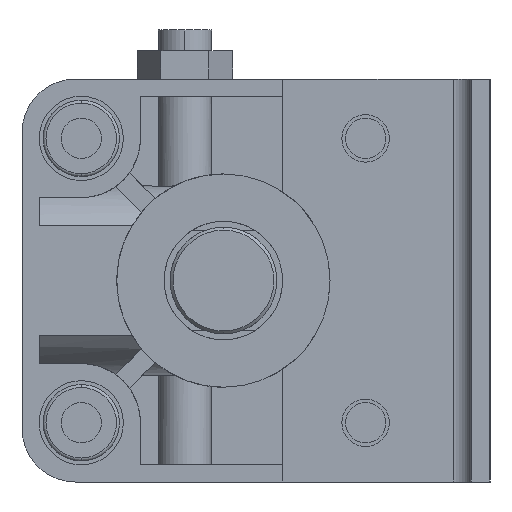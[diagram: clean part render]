
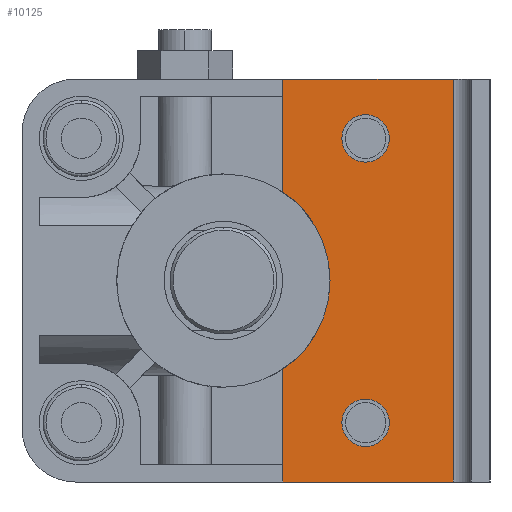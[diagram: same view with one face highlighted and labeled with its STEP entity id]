
A CAD part, left-side view. The second image highlights one B-rep face of the part: STEP entity #10125.
In plain terms, the highlighted planar face has unit normal (-1, 0, 0) as drawn and (0, 0, 1) by its records, which use the part's own axes.
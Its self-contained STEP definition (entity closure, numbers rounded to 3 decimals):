
#26 = DIRECTION ( 'NONE',  ( 1., 0., 0. ) ) ;
#87 = DIRECTION ( 'NONE',  ( 1., 0., 0. ) ) ;
#264 = ORIENTED_EDGE ( 'NONE', *, *, #9219, .T. ) ;
#342 = CARTESIAN_POINT ( 'NONE',  ( -34., -38.8, 0. ) ) ;
#363 = CIRCLE ( 'NONE', #2508, 4. ) ;
#367 = DIRECTION ( 'NONE',  ( 0., 1., 0. ) ) ;
#428 = ORIENTED_EDGE ( 'NONE', *, *, #2179, .T. ) ;
#459 = VERTEX_POINT ( 'NONE', #8633 ) ;
#498 = DIRECTION ( 'NONE',  ( 1., 0., 0. ) ) ;
#599 = CARTESIAN_POINT ( 'NONE',  ( 24., -24., 0. ) ) ;
#824 = VERTEX_POINT ( 'NONE', #10121 ) ;
#918 = DIRECTION ( 'NONE',  ( 1., 0., 0. ) ) ;
#1026 = FACE_BOUND ( 'NONE', #8111, .T. ) ;
#1282 = CARTESIAN_POINT ( 'NONE',  ( -20., -24., 0. ) ) ;
#1294 = DIRECTION ( 'NONE',  ( -1., 0., 0. ) ) ;
#1670 = EDGE_CURVE ( 'NONE', #4592, #2821, #4278, .T. ) ;
#1780 = LINE ( 'NONE', #3621, #7710 ) ;
#1798 = DIRECTION ( 'NONE',  ( 0., 0., -1. ) ) ;
#2034 = ORIENTED_EDGE ( 'NONE', *, *, #3947, .T. ) ;
#2064 = VERTEX_POINT ( 'NONE', #1282 ) ;
#2157 = LINE ( 'NONE', #8894, #8405 ) ;
#2179 = EDGE_CURVE ( 'NONE', #459, #9951, #4077, .T. ) ;
#2233 = AXIS2_PLACEMENT_3D ( 'NONE', #9988, #3125, #87 ) ;
#2303 = EDGE_CURVE ( 'NONE', #2821, #2497, #6991, .T. ) ;
#2455 = ORIENTED_EDGE ( 'NONE', *, *, #2303, .F. ) ;
#2497 = VERTEX_POINT ( 'NONE', #5402 ) ;
#2508 = AXIS2_PLACEMENT_3D ( 'NONE', #4084, #7217, #918 ) ;
#2545 = CIRCLE ( 'NONE', #3501, 4. ) ;
#2573 = ORIENTED_EDGE ( 'NONE', *, *, #3532, .T. ) ;
#2712 = CARTESIAN_POINT ( 'NONE',  ( -28., -24., 0. ) ) ;
#2821 = VERTEX_POINT ( 'NONE', #9202 ) ;
#2933 = VECTOR ( 'NONE', #8382, 1000. ) ;
#2953 = ORIENTED_EDGE ( 'NONE', *, *, #1670, .F. ) ;
#3055 = FACE_OUTER_BOUND ( 'NONE', #9426, .T. ) ;
#3125 = DIRECTION ( 'NONE',  ( 0., 0., -1. ) ) ;
#3132 = ORIENTED_EDGE ( 'NONE', *, *, #5954, .T. ) ;
#3276 = CARTESIAN_POINT ( 'NONE',  ( -14.967, -10., 0. ) ) ;
#3387 = EDGE_CURVE ( 'NONE', #4081, #2497, #1780, .T. ) ;
#3409 = CARTESIAN_POINT ( 'NONE',  ( -34., -27.5, 0. ) ) ;
#3501 = AXIS2_PLACEMENT_3D ( 'NONE', #599, #1798, #3956 ) ;
#3532 = EDGE_CURVE ( 'NONE', #9320, #2064, #363, .T. ) ;
#3538 = PLANE ( 'NONE',  #8916 ) ;
#3621 = CARTESIAN_POINT ( 'NONE',  ( 0., -10., 0. ) ) ;
#3947 = EDGE_CURVE ( 'NONE', #2064, #9320, #8946, .T. ) ;
#3956 = DIRECTION ( 'NONE',  ( 1., 0., 0. ) ) ;
#4077 = CIRCLE ( 'NONE', #2233, 4. ) ;
#4081 = VERTEX_POINT ( 'NONE', #3276 ) ;
#4084 = CARTESIAN_POINT ( 'NONE',  ( -24., -24., 0. ) ) ;
#4278 = LINE ( 'NONE', #5087, #2933 ) ;
#4343 = DIRECTION ( 'NONE',  ( 0., 0., -1. ) ) ;
#4474 = DIRECTION ( 'NONE',  ( -1., 0., 0. ) ) ;
#4523 = DIRECTION ( 'NONE',  ( 0., 0., -1. ) ) ;
#4592 = VERTEX_POINT ( 'NONE', #5670 ) ;
#5021 = CARTESIAN_POINT ( 'NONE',  ( 14.967, -10., 0. ) ) ;
#5087 = CARTESIAN_POINT ( 'NONE',  ( 0., -38.8, 0. ) ) ;
#5402 = CARTESIAN_POINT ( 'NONE',  ( -34., -10., 0. ) ) ;
#5670 = CARTESIAN_POINT ( 'NONE',  ( 34., -38.8, 0. ) ) ;
#5954 = EDGE_CURVE ( 'NONE', #824, #8802, #2157, .T. ) ;
#6107 = DIRECTION ( 'NONE',  ( 0., -1., 0. ) ) ;
#6148 = DIRECTION ( 'NONE',  ( 0., 0., 1. ) ) ;
#6153 = DIRECTION ( 'NONE',  ( 1., 0., 0. ) ) ;
#6295 = EDGE_CURVE ( 'NONE', #824, #4592, #9545, .T. ) ;
#6351 = AXIS2_PLACEMENT_3D ( 'NONE', #9445, #4523, #26 ) ;
#6628 = ORIENTED_EDGE ( 'NONE', *, *, #3387, .T. ) ;
#6629 = FACE_BOUND ( 'NONE', #7833, .T. ) ;
#6635 = ORIENTED_EDGE ( 'NONE', *, *, #6295, .F. ) ;
#6650 = CARTESIAN_POINT ( 'NONE',  ( 28., -24., 0. ) ) ;
#6991 = LINE ( 'NONE', #3409, #9429 ) ;
#7217 = DIRECTION ( 'NONE',  ( 0., 0., -1. ) ) ;
#7710 = VECTOR ( 'NONE', #1294, 1000. ) ;
#7833 = EDGE_LOOP ( 'NONE', ( #2034, #2573 ) ) ;
#7895 = ORIENTED_EDGE ( 'NONE', *, *, #8055, .T. ) ;
#8055 = EDGE_CURVE ( 'NONE', #9951, #459, #2545, .T. ) ;
#8111 = EDGE_LOOP ( 'NONE', ( #7895, #428 ) ) ;
#8141 = CARTESIAN_POINT ( 'NONE',  ( 0., 0., 0. ) ) ;
#8382 = DIRECTION ( 'NONE',  ( -1., 0., 0. ) ) ;
#8405 = VECTOR ( 'NONE', #4474, 1000. ) ;
#8633 = CARTESIAN_POINT ( 'NONE',  ( 20., -24., 0. ) ) ;
#8802 = VERTEX_POINT ( 'NONE', #5021 ) ;
#8832 = CIRCLE ( 'NONE', #9573, 18. ) ;
#8894 = CARTESIAN_POINT ( 'NONE',  ( 0., -10., 0. ) ) ;
#8916 = AXIS2_PLACEMENT_3D ( 'NONE', #342, #6148, #6153 ) ;
#8946 = CIRCLE ( 'NONE', #6351, 4. ) ;
#9075 = CARTESIAN_POINT ( 'NONE',  ( 34., -27.5, 0. ) ) ;
#9202 = CARTESIAN_POINT ( 'NONE',  ( -34., -38.8, 0. ) ) ;
#9219 = EDGE_CURVE ( 'NONE', #8802, #4081, #8832, .T. ) ;
#9320 = VERTEX_POINT ( 'NONE', #2712 ) ;
#9426 = EDGE_LOOP ( 'NONE', ( #264, #6628, #2455, #2953, #6635, #3132 ) ) ;
#9429 = VECTOR ( 'NONE', #367, 1000. ) ;
#9445 = CARTESIAN_POINT ( 'NONE',  ( -24., -24., 0. ) ) ;
#9545 = LINE ( 'NONE', #9075, #9902 ) ;
#9573 = AXIS2_PLACEMENT_3D ( 'NONE', #8141, #4343, #498 ) ;
#9902 = VECTOR ( 'NONE', #6107, 1000. ) ;
#9951 = VERTEX_POINT ( 'NONE', #6650 ) ;
#9988 = CARTESIAN_POINT ( 'NONE',  ( 24., -24., 0. ) ) ;
#10121 = CARTESIAN_POINT ( 'NONE',  ( 34., -10., 0. ) ) ;
#10125 = ADVANCED_FACE ( 'NONE', ( #6629, #1026, #3055 ), #3538, .T. ) ;
